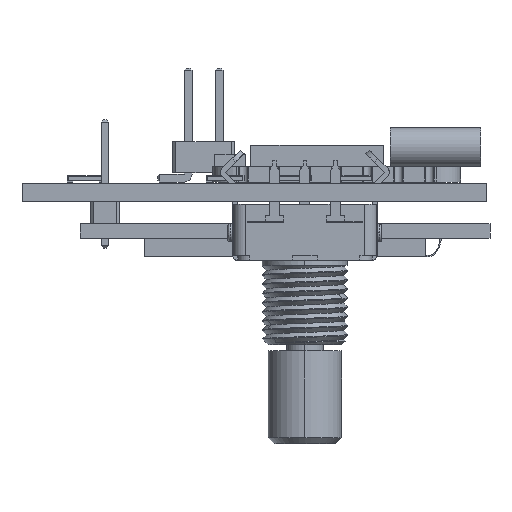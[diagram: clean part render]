
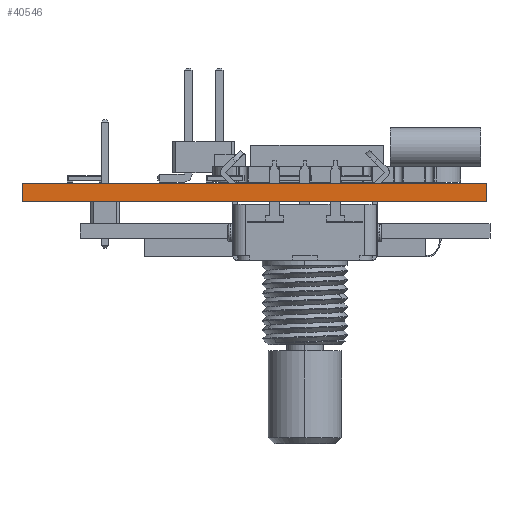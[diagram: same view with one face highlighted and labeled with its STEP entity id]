
A CAD part, left-side view. The second image highlights one B-rep face of the part: STEP entity #40546.
In plain terms, the highlighted planar face has unit normal (-1, 0, 0).
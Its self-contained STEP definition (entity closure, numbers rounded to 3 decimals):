
#40490 = VERTEX_POINT('',#40491);
#40491 = CARTESIAN_POINT('',(56.209,-79.554,1.51));
#40497 = EDGE_CURVE('',#40498,#40490,#40500,.T.);
#40498 = VERTEX_POINT('',#40499);
#40499 = CARTESIAN_POINT('',(56.209,-79.554,0.));
#40500 = LINE('',#40501,#40502);
#40501 = CARTESIAN_POINT('',(56.209,-79.554,0.));
#40502 = VECTOR('',#40503,1.);
#40503 = DIRECTION('',(0.,0.,1.));
#40546 = ADVANCED_FACE('',(#40547),#40572,.T.);
#40547 = FACE_BOUND('',#40548,.T.);
#40548 = EDGE_LOOP('',(#40549,#40550,#40558,#40566));
#40549 = ORIENTED_EDGE('',*,*,#40497,.T.);
#40550 = ORIENTED_EDGE('',*,*,#40551,.T.);
#40551 = EDGE_CURVE('',#40490,#40552,#40554,.T.);
#40552 = VERTEX_POINT('',#40553);
#40553 = CARTESIAN_POINT('',(56.209,-41.554,1.51));
#40554 = LINE('',#40555,#40556);
#40555 = CARTESIAN_POINT('',(56.209,-79.554,1.51));
#40556 = VECTOR('',#40557,1.);
#40557 = DIRECTION('',(0.,1.,0.));
#40558 = ORIENTED_EDGE('',*,*,#40559,.F.);
#40559 = EDGE_CURVE('',#40560,#40552,#40562,.T.);
#40560 = VERTEX_POINT('',#40561);
#40561 = CARTESIAN_POINT('',(56.209,-41.554,0.));
#40562 = LINE('',#40563,#40564);
#40563 = CARTESIAN_POINT('',(56.209,-41.554,0.));
#40564 = VECTOR('',#40565,1.);
#40565 = DIRECTION('',(0.,0.,1.));
#40566 = ORIENTED_EDGE('',*,*,#40567,.F.);
#40567 = EDGE_CURVE('',#40498,#40560,#40568,.T.);
#40568 = LINE('',#40569,#40570);
#40569 = CARTESIAN_POINT('',(56.209,-79.554,0.));
#40570 = VECTOR('',#40571,1.);
#40571 = DIRECTION('',(0.,1.,0.));
#40572 = PLANE('',#40573);
#40573 = AXIS2_PLACEMENT_3D('',#40574,#40575,#40576);
#40574 = CARTESIAN_POINT('',(56.209,-79.554,0.));
#40575 = DIRECTION('',(-1.,0.,0.));
#40576 = DIRECTION('',(0.,1.,0.));
